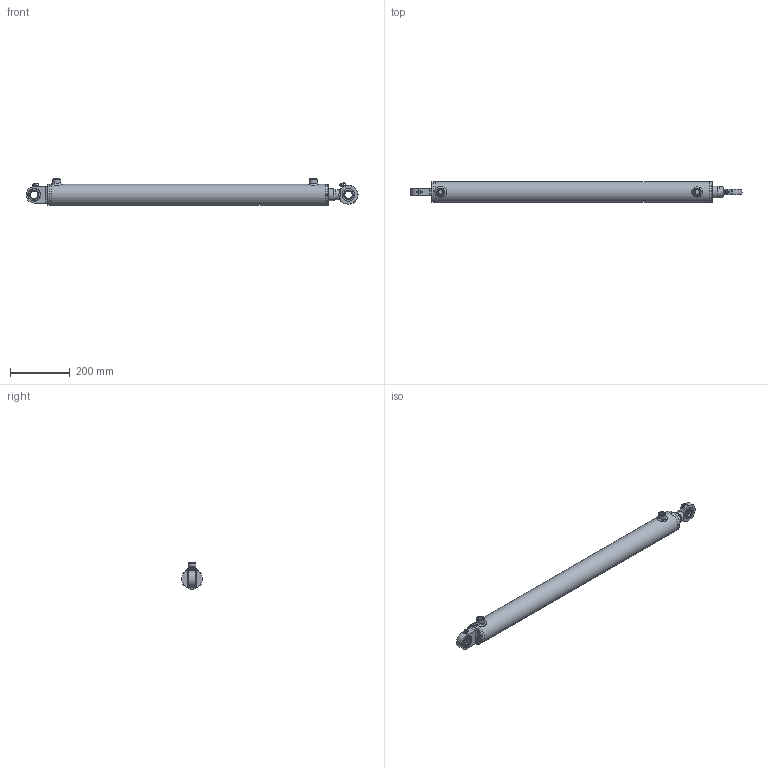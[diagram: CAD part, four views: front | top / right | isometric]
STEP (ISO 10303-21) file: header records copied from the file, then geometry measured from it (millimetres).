
FILE_DESCRIPTION( ( 'Unknown' ), '1' );
FILE_NAME( 'E:/LIBRERIA_3d/CILINDRI/HMB/HMB3400800.stp', 'Unknown', ( 'Unknown' ), ( 'Unknown' ), 'PSStep 17.0.49', 'Unknown', ' ' );
FILE_SCHEMA( ( 'AUTOMOTIVE_DESIGN { 1 0 10303 214 1 1 1 1 }' ) );
Length unit declared in the file: millimetre
Products named in the file (37): CSTSF025N0; An00006001; CSTS025N_CORPO; CSAI002042; CSAI002042-oa5; CSTSF025C0; tsc25c_CORPO; AN00006001; CG07006040; CT00060027; STL3500800-oa4; Saldatura d'angolo 1-oa2; FTM3500800-oa3; CBSC220600; HM03400800; Saldatura con preparazione 1-oa0; Saldatura d'angolo 1-oa1; CF00060070; CBS0600000; APG0600000; CDB0002720; SBL4040800; CSTS025C00; cge0250000; APGR013000; CSTS025N00; CGE0250000; Assem1; Saldatura d'angolo 1-oa6; Saldatura d'angolo 2-oa7
Assembly tree (32 placements, depth 4):
  Saldatura d'angolo 1-oa2
  Saldatura d'angolo 1-oa2
  Saldatura d'angolo 1-oa1
  Saldatura d'angolo 1-oa1
  Assem1
    APGR013000  x2
    HM03400800
      Saldatura con preparazione 1-oa0
      Saldatura con preparazione 1-oa0
      CF00060070
      CBS0600000
      APG0600000  x2
      CDB0002720
      SBL4040800
      CG07006040
        CG07006040
      CT00060027
        CT00060027
      STL3500800-oa4
        FTM3500800-oa3
        CBSC220600
    CSTS025C00
      cge0250000
      APGR013000
      CSTSF025C0
        tsc25c_CORPO
        AN00006001
    CSTS025N00
      CGE0250000
      APGR013000
      CSTSF025N0
        An00006001
        CSTS025N_CORPO
        CSAI002042
        CSAI002042-oa5
Bounding box: 1109.5 x 70 x 89 mm (x, y, z)
Volume: 2447531.7 mm3; surface area: 628449.2 mm2
Topology: 32 solids, 32 shells, 390 faces, 803 edges, 508 vertices
Faces by surface type: plane 156, cylinder 99, cone 46, torus 46, bspline 36, sphere 7
Full cylindrical faces by diameter (mm): 2 x4, 4 x1, 4.25 x1, 5 x12, 6 x4, 7 x2, 8 x4, 9 x4, 14.95 x2, 16 x2, 16.6 x2, 22 x2, 25 x4, 26 x2, 26.4 x1, 27 x5, 33.2 x1, 33.5 x1, 40 x6, 41 x1, 42 x9, 43 x1, 44 x1, 48 x1, 48.6 x1, 55 x1, 55.39 x2, 58.65 x2, 59.9 x1, 60 x1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
Entity records: 14638 total; most frequent: CARTESIAN_POINT 5678, DIRECTION 1360, ORIENTED_EDGE 882, AXIS2_PLACEMENT_3D 617, EDGE_LOOP 592, FACE_OUTER_BOUND 466, EDGE_CURVE 441, VERTEX_POINT 377
